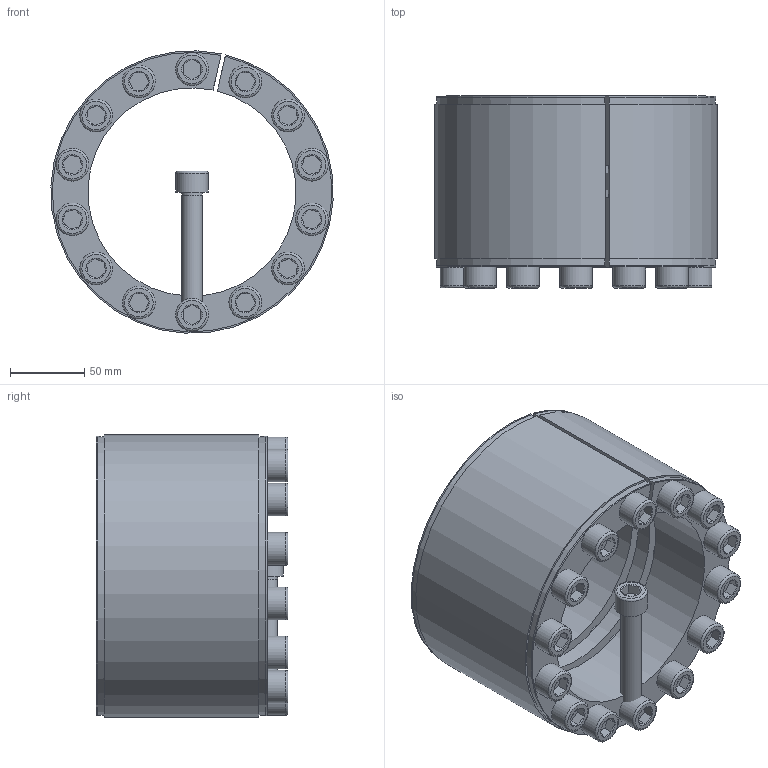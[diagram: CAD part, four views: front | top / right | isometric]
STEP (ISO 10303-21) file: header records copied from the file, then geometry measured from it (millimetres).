
FILE_DESCRIPTION( ( 'Unknown' ), '1' );
FILE_NAME( 'C:/Dokumente und Einstellungen/Sven/Desktop/homepage/cad - homepage/KBS11/KBS 11 - 140 x 190.stp', 'Unknown', ( 'Unknown' ), ( 'Unknown' ), 'XStep 1.0', 'Unknown', ' ' );
FILE_SCHEMA( ( 'automotive_design' ) );
Length unit declared in the file: millimetre
Products named in the file (3): Assem1; KBS 11 - 140 x 190; ISO EN DIN 4762 M14x90
Bounding box: 189.75 x 129 x 189.82 mm (x, y, z)
Volume: 2545763.5 mm3; surface area: 577525.5 mm2
Topology: 17 solids, 17 shells, 499 faces, 1061 edges, 656 vertices
Faces by surface type: plane 200, cylinder 156, cone 113, torus 30
Full cylindrical faces by diameter (mm): 12 x15, 14 x114, 22 x15
Entity records: 3278 total; most frequent: CARTESIAN_POINT 501, DIRECTION 484, ORIENTED_EDGE 346, EDGE_LOOP 224, AXIS2_PLACEMENT_3D 222, EDGE_CURVE 173, VERTEX_POINT 143, FACE_OUTER_BOUND 135
